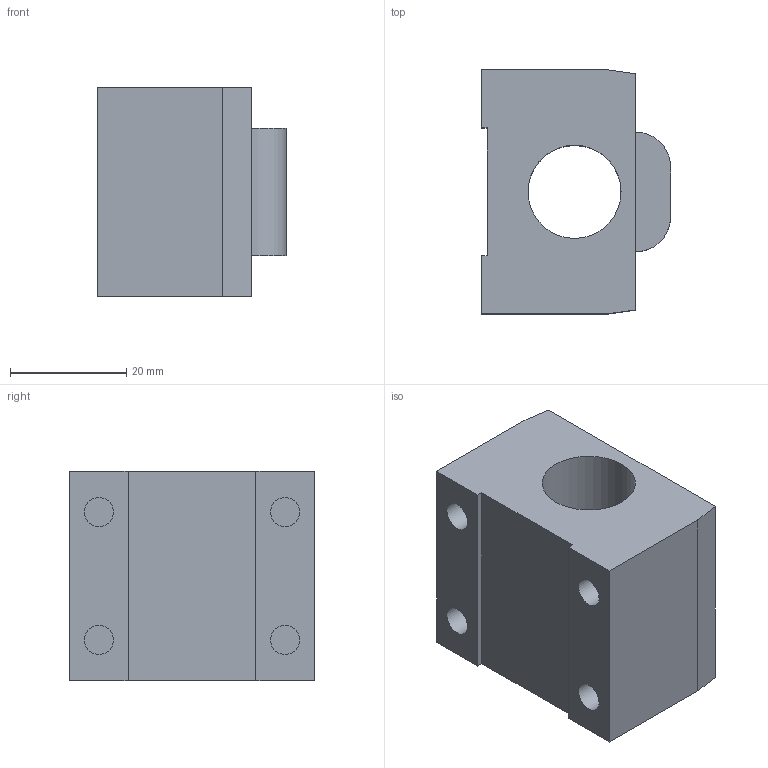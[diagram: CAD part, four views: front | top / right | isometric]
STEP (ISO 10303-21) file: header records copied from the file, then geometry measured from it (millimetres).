
FILE_DESCRIPTION(/* description */ (''),/* implementation_level */ '2;1');
FILE_NAME(/* name */ '16-5B1',/* time_stamp */ '2007-05-17T17:55:06+08:00',/* author */ (''),/* organization */ (''),/* preprocessor_version */ 'ST-DEVELOPER v9',/* originating_system */ 'UGS - NX 4.0',/* authorisation */ '');
FILE_SCHEMA (('CONFIG_CONTROL_DESIGN'));
Length unit declared in the file: millimetre
Products named in the file (1): 16-5B1
Bounding box: 32.5 x 42 x 36 mm (x, y, z)
Volume: 33700.8 mm3; surface area: 9377.5 mm2
Topology: 1 solids, 1 shells, 26 faces, 57 edges, 38 vertices
Faces by surface type: plane 19, cylinder 7
Full cylindrical faces by diameter (mm): 5 x4, 16 x1
Entity records: 780 total; most frequent: DIRECTION 120, CARTESIAN_POINT 117, ORIENTED_EDGE 104, EDGE_CURVE 52, AXIS2_PLACEMENT_3D 41, EDGE_LOOP 38, VERTEX_POINT 38, LINE 38
